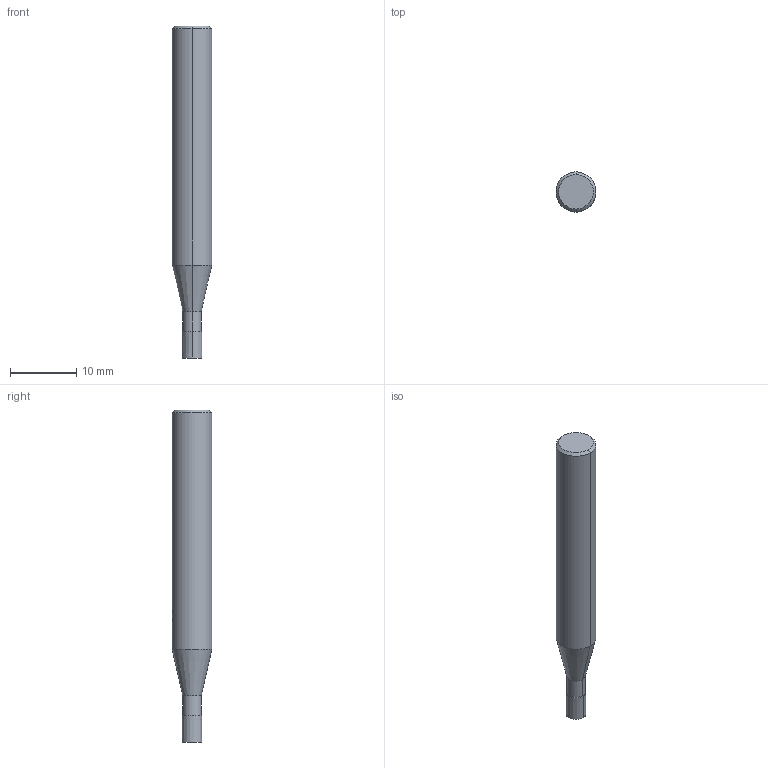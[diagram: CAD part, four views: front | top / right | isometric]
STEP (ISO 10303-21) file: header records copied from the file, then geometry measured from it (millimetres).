
FILE_DESCRIPTION(('no description'),'unknown implementation level');
FILE_NAME('solidQ3yaTWZt3_PRRibp__gK1KO3_v8_1.STP',' ',('CIMSOURCE GmbH'),('CADClick - KiM GmbH - www.kimweb.de'),'unknown preprocess','ACIS','unknown authorization');
FILE_SCHEMA(('automotive_design'));
Length unit declared in the file: millimetre
Products named in the file (2): NOCUT; CUT
Bounding box: 6 x 6 x 50 mm (x, y, z)
Volume: 1174 mm3; surface area: 919.2 mm2
Topology: 2 solids, 2 shells, 37 faces, 85 edges, 54 vertices
Faces by surface type: cylinder 16, plane 11, cone 10
Entity records: 2296 total; most frequent: CARTESIAN_POINT 398, DIRECTION 191, STYLED_ITEM 178, PRESENTATION_STYLE_ASSIGNMENT 178, COLOUR_RGB 178, ORIENTED_EDGE 170, EDGE_CURVE 85, CURVE_STYLE 85
